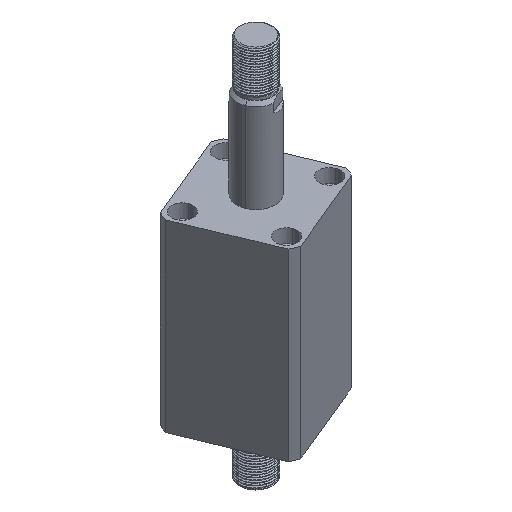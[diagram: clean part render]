
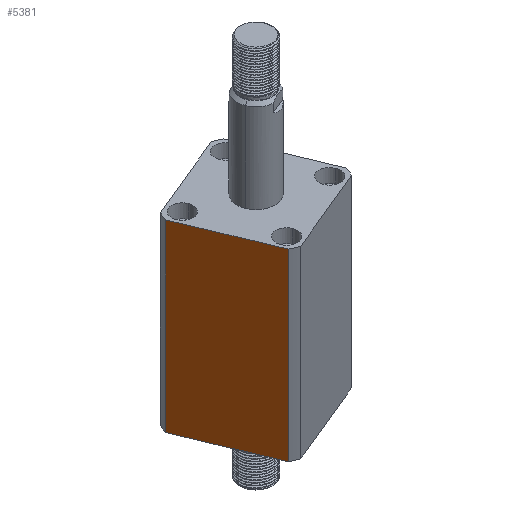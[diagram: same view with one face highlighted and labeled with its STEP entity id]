
A CAD part, isometric view. The second image highlights one B-rep face of the part: STEP entity #5381.
In plain terms, the highlighted planar face has unit normal (-0.924, -0.383, 0) as drawn and (1, 0, 0) by its records, which use the part's own axes.
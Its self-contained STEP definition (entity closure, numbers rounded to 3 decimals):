
#571 = EDGE_CURVE ( 'NONE', #7975, #12661, #11505, .T. ) ;
#1022 = VECTOR ( 'NONE', #8702, 1000. ) ;
#1509 = CARTESIAN_POINT ( 'NONE',  ( 35., 30.615, 120. ) ) ;
#1542 = CARTESIAN_POINT ( 'NONE',  ( 35., 35., 120. ) ) ;
#1587 = CARTESIAN_POINT ( 'NONE',  ( 35., 30.615, -2880. ) ) ;
#2443 = VECTOR ( 'NONE', #6989, 1000. ) ;
#2627 = ORIENTED_EDGE ( 'NONE', *, *, #6894, .F. ) ;
#2878 = LINE ( 'NONE', #7352, #2443 ) ;
#3268 = CARTESIAN_POINT ( 'NONE',  ( 35., -30.615, -2880. ) ) ;
#3372 = CARTESIAN_POINT ( 'NONE',  ( 35., 30.615, 0. ) ) ;
#5196 = FACE_OUTER_BOUND ( 'NONE', #11085, .T. ) ;
#5381 = ADVANCED_FACE ( 'NONE', ( #5196 ), #11824, .F. ) ;
#6032 = EDGE_CURVE ( 'NONE', #8423, #15821, #2878, .T. ) ;
#6244 = AXIS2_PLACEMENT_3D ( 'NONE', #1542, #11597, #11543 ) ;
#6894 = EDGE_CURVE ( 'NONE', #12661, #15821, #17136, .T. ) ;
#6989 = DIRECTION ( 'NONE',  ( 0., 1., 0. ) ) ;
#7352 = CARTESIAN_POINT ( 'NONE',  ( 35., 35., 0. ) ) ;
#7975 = VERTEX_POINT ( 'NONE', #16290 ) ;
#8423 = VERTEX_POINT ( 'NONE', #17450 ) ;
#8702 = DIRECTION ( 'NONE',  ( 0., 1., 0. ) ) ;
#9848 = DIRECTION ( 'NONE',  ( 0., 0., -1. ) ) ;
#9887 = VECTOR ( 'NONE', #11488, 1000. ) ;
#11021 = ORIENTED_EDGE ( 'NONE', *, *, #6032, .T. ) ;
#11085 = EDGE_LOOP ( 'NONE', ( #17415, #11021, #2627, #12013 ) ) ;
#11488 = DIRECTION ( 'NONE',  ( 0., 0., 1. ) ) ;
#11505 = LINE ( 'NONE', #13634, #1022 ) ;
#11543 = DIRECTION ( 'NONE',  ( 0., -1., 0. ) ) ;
#11597 = DIRECTION ( 'NONE',  ( -1., 0., 0. ) ) ;
#11824 = PLANE ( 'NONE',  #6244 ) ;
#12013 = ORIENTED_EDGE ( 'NONE', *, *, #571, .F. ) ;
#12661 = VERTEX_POINT ( 'NONE', #1509 ) ;
#13634 = CARTESIAN_POINT ( 'NONE',  ( 35., 35., 120. ) ) ;
#15821 = VERTEX_POINT ( 'NONE', #3372 ) ;
#16290 = CARTESIAN_POINT ( 'NONE',  ( 35., -30.615, 120. ) ) ;
#16740 = VECTOR ( 'NONE', #9848, 1000. ) ;
#17055 = LINE ( 'NONE', #3268, #9887 ) ;
#17136 = LINE ( 'NONE', #1587, #16740 ) ;
#17415 = ORIENTED_EDGE ( 'NONE', *, *, #17610, .F. ) ;
#17450 = CARTESIAN_POINT ( 'NONE',  ( 35., -30.615, 0. ) ) ;
#17610 = EDGE_CURVE ( 'NONE', #8423, #7975, #17055, .T. ) ;
